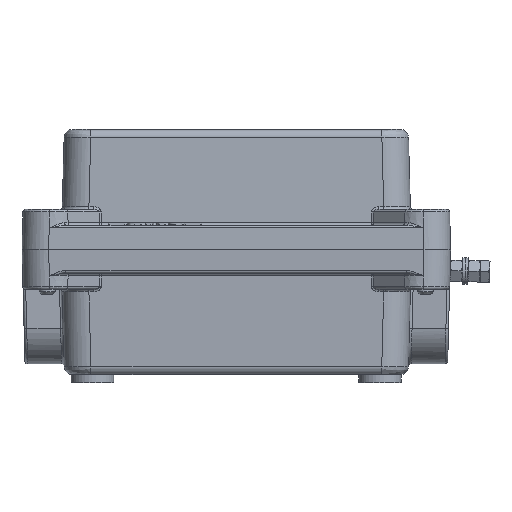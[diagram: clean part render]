
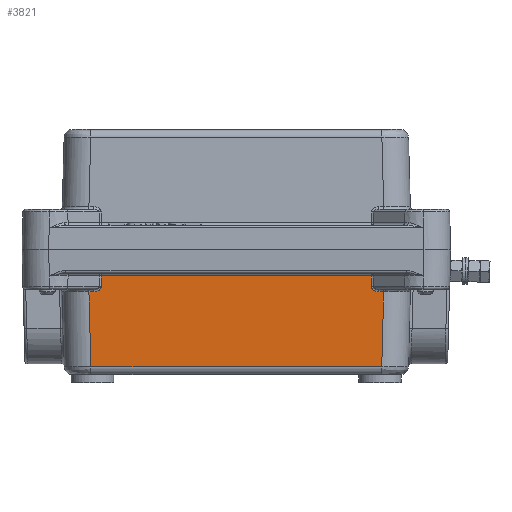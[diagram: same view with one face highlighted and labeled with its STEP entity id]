
A CAD part, front view. The second image highlights one B-rep face of the part: STEP entity #3821.
In plain terms, the highlighted planar face has unit normal (0, -1, -0.026) as drawn and (-1, 0.026, 0) by its records, which use the part's own axes.
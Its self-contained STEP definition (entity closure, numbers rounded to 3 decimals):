
#3821=ADVANCED_FACE('',(#20741),#20743,.T.);
#20741=FACE_BOUND('',#20742,.T.);
#20742=EDGE_LOOP('',(#46454,#46455,#46456,#46457,#46458,#46459,#46460,#46461,#46462,
#46463));
#20743=PLANE('',#20744);
#20744=AXIS2_PLACEMENT_3D('',#20745,#20746,#20747);
#20745=CARTESIAN_POINT('',(-37.768,9.5,-51.151));
#20746=DIRECTION('',(-1.,0.026,0.));
#20747=DIRECTION('',(0.,0.,1.));
#46454=ORIENTED_EDGE('',*,*,#52841,.T.);
#46455=ORIENTED_EDGE('',*,*,#52924,.F.);
#46456=ORIENTED_EDGE('',*,*,#52859,.F.);
#46457=ORIENTED_EDGE('',*,*,#52855,.T.);
#46458=ORIENTED_EDGE('',*,*,#52850,.T.);
#46459=ORIENTED_EDGE('',*,*,#52925,.F.);
#46460=ORIENTED_EDGE('',*,*,#52827,.T.);
#46461=ORIENTED_EDGE('',*,*,#52926,.T.);
#46462=ORIENTED_EDGE('',*,*,#52927,.F.);
#46463=ORIENTED_EDGE('',*,*,#52928,.F.);
#52827=EDGE_CURVE('',#56668,#56666,#56669,.T.);
#52841=EDGE_CURVE('',#56688,#56686,#56689,.T.);
#52850=EDGE_CURVE('',#56700,#56701,#56702,.T.);
#52855=EDGE_CURVE('',#56707,#56700,#56708,.T.);
#52859=EDGE_CURVE('',#56707,#56712,#56713,.T.);
#52924=EDGE_CURVE('',#56712,#56686,#56803,.F.);
#52925=EDGE_CURVE('',#56668,#56701,#56804,.T.);
#52926=EDGE_CURVE('',#56666,#56805,#56806,.T.);
#52927=EDGE_CURVE('',#56807,#56805,#56808,.T.);
#52928=EDGE_CURVE('',#56688,#56807,#56809,.T.);
#56666=VERTEX_POINT('',#66538);
#56668=VERTEX_POINT('',#66543);
#56669=LINE('',#66544,#66545);
#56686=VERTEX_POINT('',#66670);
#56688=VERTEX_POINT('',#66675);
#56689=LINE('',#66676,#66677);
#56700=VERTEX_POINT('',#66773);
#56701=VERTEX_POINT('',#66774);
#56702=LINE('',#66775,#66776);
#56707=VERTEX_POINT('',#66794);
#56708=LINE('',#66795,#66796);
#56712=VERTEX_POINT('',#66810);
#56713=LINE('',#66811,#66812);
#56803=B_SPLINE_CURVE_WITH_KNOTS('',3,
(#67510,#67511,#67512,#67513,#67514,#67515,#67516,#67517,#67518,#67519,#67520,#67521,
#67522,#67523,#67524,#67525,#67526,#67527,#67528,#67529,#67530,#67531,#67532,#67533,
#67534,#67535,#67536,#67537,#67538,#67539,#67540,#67541),
.UNSPECIFIED.,.F.,.F.,
(4,2,2,2,2,2,2,2,2,2,2,2,2,2,2,4),
(0.,0.123,0.213,0.245,0.342,0.434,
0.516,0.59,0.658,0.722,0.782,
0.839,0.895,0.953,0.999,1.),
.UNSPECIFIED.);
#56804=B_SPLINE_CURVE_WITH_KNOTS('',3,
(#67542,#67543,#67544,#67545,#67546,#67547,#67548,#67549,#67550,#67551,#67552,#67553,
#67554,#67555,#67556,#67557,#67558,#67559,#67560,#67561,#67562,#67563,#67564,#67565,
#67566,#67567,#67568,#67569,#67570,#67571,#67572,#67573),
.UNSPECIFIED.,.F.,.F.,
(4,2,2,2,2,2,2,2,2,2,2,2,2,2,2,4),
(0.,0.123,0.213,0.245,0.342,0.434,
0.516,0.59,0.658,0.722,0.782,
0.839,0.895,0.953,0.999,1.),
.UNSPECIFIED.);
#56805=VERTEX_POINT('',#67574);
#56806=LINE('',#67575,#67576);
#56807=VERTEX_POINT('',#67578);
#56808=LINE('',#67579,#67580);
#56809=LINE('',#67582,#67583);
#66538=CARTESIAN_POINT('',(-37.586,16.474,55.339));
#66543=CARTESIAN_POINT('',(-37.586,16.474,53.568));
#66544=CARTESIAN_POINT('',(-37.586,16.474,53.568));
#66545=VECTOR('',#66546,1.);
#66546=DIRECTION('',(0.,0.,1.));
#66670=CARTESIAN_POINT('',(-37.586,16.474,-53.568));
#66675=CARTESIAN_POINT('',(-37.586,16.474,-55.339));
#66676=CARTESIAN_POINT('',(-37.586,16.474,-55.339));
#66677=VECTOR('',#66678,1.);
#66678=DIRECTION('',(0.,0.,1.));
#66773=CARTESIAN_POINT('',(-37.743,10.474,50.748));
#66774=CARTESIAN_POINT('',(-37.637,14.526,50.792));
#66775=CARTESIAN_POINT('',(-37.743,10.474,50.748));
#66776=VECTOR('',#66777,1.);
#66777=DIRECTION('',(0.026,1.,0.011));
#66794=CARTESIAN_POINT('',(-37.743,10.474,-50.748));
#66795=CARTESIAN_POINT('',(-37.743,10.474,-50.748));
#66796=VECTOR('',#66797,1.);
#66797=DIRECTION('',(0.,0.,1.));
#66810=CARTESIAN_POINT('',(-37.637,14.526,-50.792));
#66811=CARTESIAN_POINT('',(-37.743,10.474,-50.748));
#66812=VECTOR('',#66813,1.);
#66813=DIRECTION('',(0.026,1.,-0.011));
#67510=CARTESIAN_POINT('',(-37.586,16.474,-53.568));
#67511=CARTESIAN_POINT('',(-37.586,16.469,-53.403));
#67512=CARTESIAN_POINT('',(-37.586,16.464,-53.238));
#67513=CARTESIAN_POINT('',(-37.587,16.426,-52.947));
#67514=CARTESIAN_POINT('',(-37.587,16.405,-52.82));
#67515=CARTESIAN_POINT('',(-37.589,16.366,-52.652));
#67516=CARTESIAN_POINT('',(-37.589,16.355,-52.608));
#67517=CARTESIAN_POINT('',(-37.59,16.307,-52.434));
#67518=CARTESIAN_POINT('',(-37.591,16.264,-52.303));
#67519=CARTESIAN_POINT('',(-37.594,16.165,-52.06));
#67520=CARTESIAN_POINT('',(-37.595,16.109,-51.943));
#67521=CARTESIAN_POINT('',(-37.598,15.993,-51.737));
#67522=CARTESIAN_POINT('',(-37.6,15.933,-51.643));
#67523=CARTESIAN_POINT('',(-37.603,15.812,-51.48));
#67524=CARTESIAN_POINT('',(-37.605,15.751,-51.407));
#67525=CARTESIAN_POINT('',(-37.608,15.629,-51.279));
#67526=CARTESIAN_POINT('',(-37.609,15.568,-51.223));
#67527=CARTESIAN_POINT('',(-37.613,15.449,-51.124));
#67528=CARTESIAN_POINT('',(-37.614,15.389,-51.08));
#67529=CARTESIAN_POINT('',(-37.617,15.272,-51.005));
#67530=CARTESIAN_POINT('',(-37.619,15.214,-50.972));
#67531=CARTESIAN_POINT('',(-37.622,15.1,-50.917));
#67532=CARTESIAN_POINT('',(-37.623,15.045,-50.894));
#67533=CARTESIAN_POINT('',(-37.626,14.935,-50.855));
#67534=CARTESIAN_POINT('',(-37.627,14.88,-50.839));
#67535=CARTESIAN_POINT('',(-37.63,14.77,-50.814));
#67536=CARTESIAN_POINT('',(-37.632,14.715,-50.805));
#67537=CARTESIAN_POINT('',(-37.634,14.615,-50.795));
#67538=CARTESIAN_POINT('',(-37.635,14.571,-50.792));
#67539=CARTESIAN_POINT('',(-37.637,14.527,-50.792));
#67540=CARTESIAN_POINT('',(-37.637,14.527,-50.792));
#67541=CARTESIAN_POINT('',(-37.637,14.526,-50.792));
#67542=CARTESIAN_POINT('',(-37.586,16.474,53.568));
#67543=CARTESIAN_POINT('',(-37.586,16.469,53.403));
#67544=CARTESIAN_POINT('',(-37.586,16.464,53.238));
#67545=CARTESIAN_POINT('',(-37.587,16.426,52.947));
#67546=CARTESIAN_POINT('',(-37.587,16.405,52.82));
#67547=CARTESIAN_POINT('',(-37.589,16.366,52.652));
#67548=CARTESIAN_POINT('',(-37.589,16.355,52.608));
#67549=CARTESIAN_POINT('',(-37.59,16.307,52.434));
#67550=CARTESIAN_POINT('',(-37.591,16.264,52.303));
#67551=CARTESIAN_POINT('',(-37.594,16.165,52.06));
#67552=CARTESIAN_POINT('',(-37.595,16.109,51.943));
#67553=CARTESIAN_POINT('',(-37.598,15.993,51.737));
#67554=CARTESIAN_POINT('',(-37.6,15.933,51.643));
#67555=CARTESIAN_POINT('',(-37.603,15.812,51.48));
#67556=CARTESIAN_POINT('',(-37.605,15.751,51.407));
#67557=CARTESIAN_POINT('',(-37.608,15.629,51.279));
#67558=CARTESIAN_POINT('',(-37.609,15.568,51.223));
#67559=CARTESIAN_POINT('',(-37.613,15.449,51.124));
#67560=CARTESIAN_POINT('',(-37.614,15.389,51.08));
#67561=CARTESIAN_POINT('',(-37.617,15.272,51.005));
#67562=CARTESIAN_POINT('',(-37.619,15.214,50.972));
#67563=CARTESIAN_POINT('',(-37.622,15.1,50.917));
#67564=CARTESIAN_POINT('',(-37.623,15.045,50.894));
#67565=CARTESIAN_POINT('',(-37.626,14.935,50.855));
#67566=CARTESIAN_POINT('',(-37.627,14.88,50.839));
#67567=CARTESIAN_POINT('',(-37.63,14.77,50.814));
#67568=CARTESIAN_POINT('',(-37.632,14.715,50.805));
#67569=CARTESIAN_POINT('',(-37.634,14.615,50.795));
#67570=CARTESIAN_POINT('',(-37.635,14.571,50.792));
#67571=CARTESIAN_POINT('',(-37.637,14.527,50.792));
#67572=CARTESIAN_POINT('',(-37.637,14.527,50.792));
#67573=CARTESIAN_POINT('',(-37.637,14.526,50.792));
#67574=CARTESIAN_POINT('',(-36.85,44.579,54.603));
#67575=CARTESIAN_POINT('',(-37.586,16.474,55.339));
#67576=VECTOR('',#67577,1.);
#67577=DIRECTION('',(0.026,0.999,-0.026));
#67578=CARTESIAN_POINT('',(-36.85,44.579,-54.603));
#67579=CARTESIAN_POINT('',(-36.85,44.579,-54.603));
#67580=VECTOR('',#67581,1.);
#67581=DIRECTION('',(0.,0.,1.));
#67582=CARTESIAN_POINT('',(-37.586,16.474,-55.339));
#67583=VECTOR('',#67584,1.);
#67584=DIRECTION('',(0.026,0.999,0.026));
